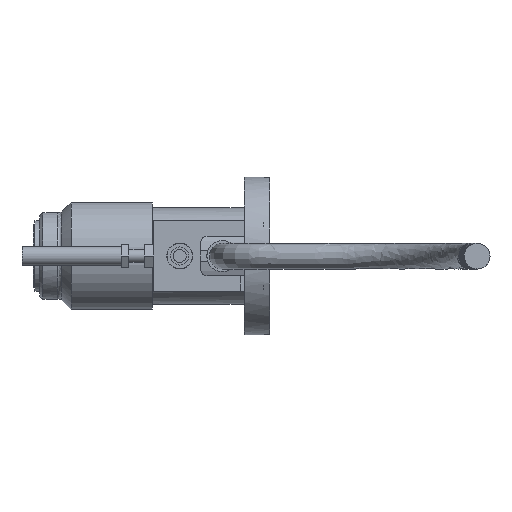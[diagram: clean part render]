
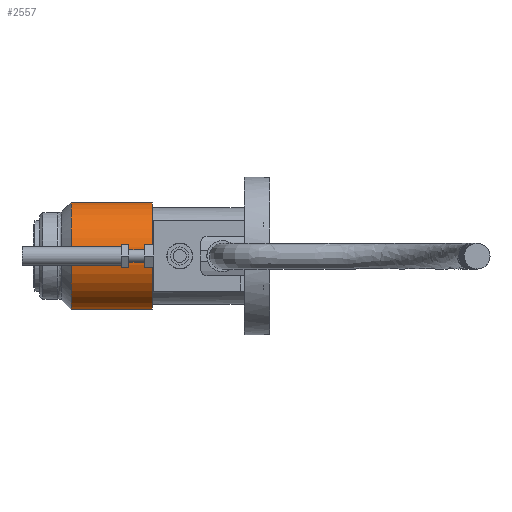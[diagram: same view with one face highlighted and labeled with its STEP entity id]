
A CAD part, left-side view. The second image highlights one B-rep face of the part: STEP entity #2557.
In plain terms, the highlighted cylindrical face has radius 16.75 mm (diameter 33.5 mm), a full revolution.
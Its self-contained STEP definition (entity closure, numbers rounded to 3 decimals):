
#239=CIRCLE('',#2822,16.75);
#240=CIRCLE('',#2823,16.75);
#247=CIRCLE('',#2835,16.75);
#248=CIRCLE('',#2836,16.75);
#294=CYLINDRICAL_SURFACE('',#2834,16.75);
#422=FACE_OUTER_BOUND('',#583,.T.);
#583=EDGE_LOOP('',(#2251,#2252,#2253,#2254,#2255,#2256));
#814=LINE('',#4323,#1026);
#1026=VECTOR('',#3554,16.75);
#1254=VERTEX_POINT('',#4298);
#1255=VERTEX_POINT('',#4300);
#1262=VERTEX_POINT('',#4322);
#1263=VERTEX_POINT('',#4324);
#1594=EDGE_CURVE('',#1254,#1255,#239,.T.);
#1595=EDGE_CURVE('',#1255,#1254,#240,.T.);
#1604=EDGE_CURVE('',#1255,#1262,#814,.T.);
#1605=EDGE_CURVE('',#1262,#1263,#247,.T.);
#1606=EDGE_CURVE('',#1263,#1262,#248,.T.);
#2251=ORIENTED_EDGE('',*,*,#1594,.F.);
#2252=ORIENTED_EDGE('',*,*,#1595,.F.);
#2253=ORIENTED_EDGE('',*,*,#1604,.T.);
#2254=ORIENTED_EDGE('',*,*,#1605,.T.);
#2255=ORIENTED_EDGE('',*,*,#1606,.T.);
#2256=ORIENTED_EDGE('',*,*,#1604,.F.);
#2557=ADVANCED_FACE('',(#422),#294,.T.);
#2822=AXIS2_PLACEMENT_3D('',#4301,#3526,#3527);
#2823=AXIS2_PLACEMENT_3D('',#4302,#3528,#3529);
#2834=AXIS2_PLACEMENT_3D('',#4321,#3552,#3553);
#2835=AXIS2_PLACEMENT_3D('',#4325,#3555,#3556);
#2836=AXIS2_PLACEMENT_3D('',#4326,#3557,#3558);
#3526=DIRECTION('center_axis',(0.,1.,0.));
#3527=DIRECTION('ref_axis',(-1.,0.,0.));
#3528=DIRECTION('center_axis',(0.,1.,0.));
#3529=DIRECTION('ref_axis',(-1.,0.,0.));
#3552=DIRECTION('center_axis',(0.,1.,0.));
#3553=DIRECTION('ref_axis',(1.,0.,0.));
#3554=DIRECTION('',(0.,-1.,0.));
#3555=DIRECTION('center_axis',(0.,1.,0.));
#3556=DIRECTION('ref_axis',(1.,0.,0.));
#3557=DIRECTION('center_axis',(0.,1.,0.));
#3558=DIRECTION('ref_axis',(1.,0.,0.));
#4298=CARTESIAN_POINT('',(16.75,61.7,0.));
#4300=CARTESIAN_POINT('',(-16.75,61.7,0.));
#4301=CARTESIAN_POINT('Origin',(0.,61.7,0.));
#4302=CARTESIAN_POINT('Origin',(0.,61.7,0.));
#4321=CARTESIAN_POINT('Origin',(0.,36.5,0.));
#4322=CARTESIAN_POINT('',(-16.75,36.5,0.));
#4323=CARTESIAN_POINT('',(-16.75,36.5,0.));
#4324=CARTESIAN_POINT('',(16.75,36.5,0.));
#4325=CARTESIAN_POINT('Origin',(0.,36.5,0.));
#4326=CARTESIAN_POINT('Origin',(0.,36.5,0.));
